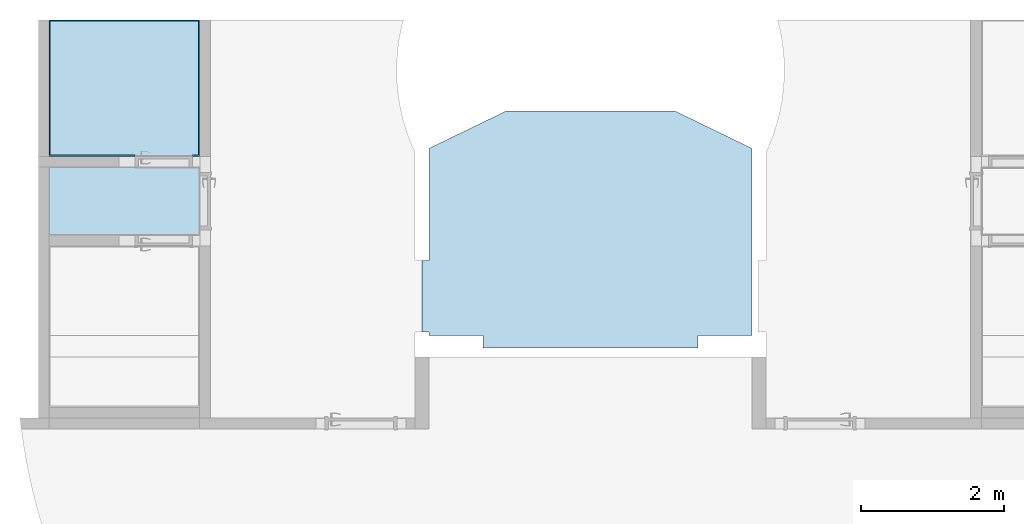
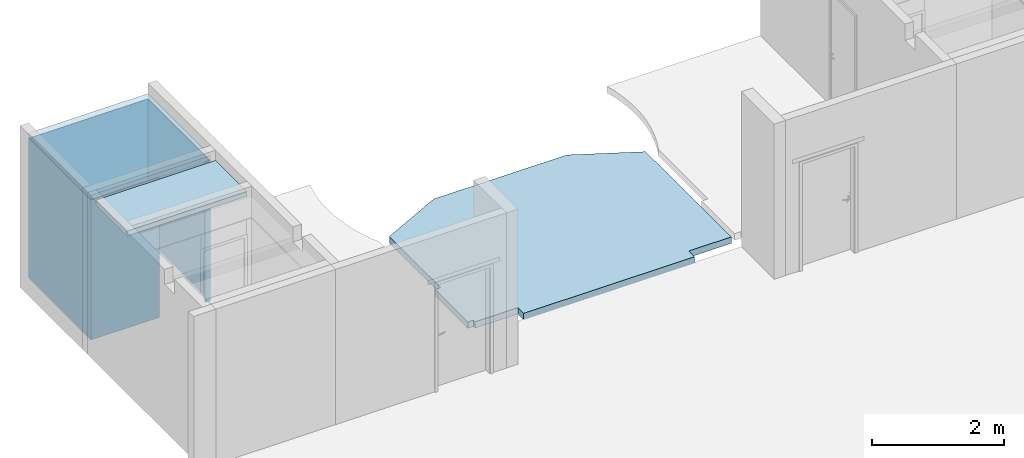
# One storey, part 4 of 17: 4 slabs.
"""IFC4 building model written with IfcOpenShell, lengths in millimetres."""

from ifc_helpers import new_model, entity, si_unit, converted_unit, derived_unit, direction, frame, origin_with_axes, place, context, subcontext, project, spatial, polygons, material, constituent, constituent_set, type_object, element, save


model = new_model("IFC4")

# Units and contexts
model_context = context("Model", 3, precision=0.01, world=origin_with_axes(), true_north=direction((0.0, 1.0)))
body_context = subcontext(model_context, "Body", "Model", "MODEL_VIEW")
ifc_project = project(units=[si_unit("LENGTHUNIT", "METRE", prefix="MILLI"), si_unit("AREAUNIT", "SQUARE_METRE"), si_unit("VOLUMEUNIT", "CUBIC_METRE"), converted_unit("PLANEANGLEUNIT", "DEGREE", entity("IfcPlaneAngleMeasure", 0.0174532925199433), si_unit("PLANEANGLEUNIT", "RADIAN"), dimensions=[0, 0, 0, 0, 0, 0, 0]), converted_unit("TIMEUNIT", "Year", entity("IfcTimeMeasure", 31557600.0), si_unit("TIMEUNIT", "SECOND"), dimensions=[0, 0, 1, 0, 0, 0, 0]), si_unit("MASSUNIT", "GRAM", prefix="KILO"), si_unit("THERMODYNAMICTEMPERATUREUNIT", "DEGREE_CELSIUS"), si_unit("LUMINOUSINTENSITYUNIT", "LUMEN"), si_unit("ENERGYUNIT", "JOULE", prefix="MEGA"), derived_unit("THERMALCONDUCTANCEUNIT", [(si_unit("POWERUNIT", "WATT"), 1), (si_unit("LENGTHUNIT", "METRE"), -1), (si_unit("THERMODYNAMICTEMPERATUREUNIT", "KELVIN"), -1)]), derived_unit("SPECIFICHEATCAPACITYUNIT", [(si_unit("ENERGYUNIT", "JOULE"), 1), (si_unit("MASSUNIT", "GRAM", prefix="KILO"), -1), (si_unit("THERMODYNAMICTEMPERATUREUNIT", "KELVIN"), -1)]), derived_unit("MASSDENSITYUNIT", [(si_unit("MASSUNIT", "GRAM", prefix="KILO"), 1), (si_unit("VOLUMEUNIT", "CUBIC_METRE"), -1)])], contexts=[model_context])

# Site, building, storey
site_placement = place(None, origin_with_axes())
site = spatial("IfcSite", under=ifc_project, at=site_placement, Name="Exteriér", CompositionType="ELEMENT")
building_placement = place(site_placement, origin_with_axes())
building = spatial("IfcBuilding", under=site, at=building_placement, Name="Univerzitní lezecké centrum", CompositionType="ELEMENT")
storey_placement = place(building_placement, frame((0.0, 0.0, 3200.0), z_axis=(0.0, 0.0, 1.0), x_axis=(1.0, 0.0, 0.0)))
storey = spatial("IfcBuildingStorey", under=building, at=storey_placement, Name="2.NP", CompositionType="ELEMENT", Elevation=3200.0)

# Slabs
ifc_material_1 = material(Name="SDK - UA profil nosný 50")
ifc_constituent_1 = constituent(ifc_material_1, Name="SDK - UA profil nosný 50")
ifc_material_2 = material(Name="SDK - R-CD profil montážní")
ifc_constituent_2 = constituent(ifc_material_2, Name="SDK - R-CD profil montážní")
ifc_material_3 = material(Name="Sádrokarton - voděodolný")
ifc_constituent_3 = constituent(ifc_material_3, Name="Sádrokarton - voděodolný")
ifc_constituent_set_1 = constituent_set(constituents=[ifc_constituent_1, ifc_constituent_2, ifc_constituent_3], Name="!SDK - hygienický")
slab_type_1 = type_object("IfcSlabType", Name="!SDK - hygienický 90", PredefinedType="FLOOR")
slab_1_placement = place(storey_placement, frame((-5100.148351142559, 2500.000000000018, 2690.0), z_axis=(0.0, 0.0, 1.0), x_axis=(1.0, 0.0, 0.0)))
element("IfcSlab", 1, at=slab_1_placement, inside=storey, type_object=slab_type_1, material=ifc_constituent_set_1, Name="Pdh01", PredefinedType="FLOOR", context=body_context, shape_type="Tessellation", body=[
    polygons([(2099.796584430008, 0.0, 0.0), (2099.796584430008, 1899.999999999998, 0.0), (0.0, 1899.999999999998, 0.0), (0.0, 0.0, 0.0), (2099.796584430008, 1899.999999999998, -50.00000000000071), (2099.796584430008, 0.0, -49.99999999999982), (0.0, 1899.999999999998, -49.99999999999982), (0.0, 0.0, -49.99999999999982)], [[[1, 2, 3, 4]], [[5, 2, 1, 6]], [[2, 5, 7, 3]], [[7, 8, 4, 3]], [[6, 1, 4, 8]], [[5, 6, 8, 7]]], closed=True),
    polygons([(2099.796584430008, 0.0, -49.99999999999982), (2099.796584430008, 1899.999999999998, -49.99999999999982), (0.0, 1899.999999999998, -49.99999999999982), (0.0, 0.0, -49.99999999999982), (2099.796584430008, 1899.999999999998, -77.00000000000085), (2099.796584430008, 0.0, -76.99999999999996), (0.0, 1899.999999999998, -76.99999999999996), (0.0, 0.0, -76.99999999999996)], [[[1, 2, 3, 4]], [[5, 2, 1, 6]], [[2, 5, 7, 3]], [[7, 8, 4, 3]], [[6, 1, 4, 8]], [[5, 6, 8, 7]]], closed=True),
    polygons([(2099.796584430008, 0.0, -76.99999999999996), (2099.796584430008, 1899.999999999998, -76.99999999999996), (0.0, 1899.999999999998, -76.99999999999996), (0.0, 0.0, -76.99999999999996), (2099.796584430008, 1899.999999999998, -89.99999999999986), (2099.796584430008, 0.0, -89.99999999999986), (0.0, 1899.999999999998, -89.99999999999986), (0.0, 0.0, -89.99999999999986)], [[[1, 2, 3, 4]], [[5, 2, 1, 6]], [[2, 5, 7, 3]], [[3, 7, 8, 4]], [[6, 1, 4, 8]], [[5, 6, 8, 7]]], closed=True),
])
ifc_constituent_4 = constituent(ifc_material_1, Name="SDK - UA profil nosný 50")
ifc_constituent_5 = constituent(ifc_material_2, Name="SDK - R-CD profil montážní")
ifc_constituent_6 = constituent(ifc_material_3, Name="Sádrokarton - voděodolný")
ifc_constituent_set_2 = constituent_set(constituents=[ifc_constituent_4, ifc_constituent_5, ifc_constituent_6], Name="!SDK - hygienický")
slab_2_placement = place(storey_placement, frame((-5100.148351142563, 1400.007373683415, 2690.0), z_axis=(0.0, 0.0, 1.0), x_axis=(1.0, 0.0, 0.0)))
element("IfcSlab", 2, at=slab_2_placement, inside=storey, type_object=slab_type_1, material=ifc_constituent_set_2, Name="Pdh01", PredefinedType="FLOOR", context=body_context, shape_type="Tessellation", body=[
    polygons([(0.0, 0.1032190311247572, 0.0), (2099.796584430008, 0.0, 0.0), (2099.796584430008, 949.9926263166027, 0.0), (0.0, 949.9926263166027, 0.0), (0.0, 0.1032190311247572, -49.99999999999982), (2099.796584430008, 0.0, -49.99999999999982), (2099.796584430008, 949.9926263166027, -49.99999999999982), (0.0, 949.9926263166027, -49.99999999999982)], [[[1, 2, 3, 4]], [[2, 1, 5, 6]], [[2, 6, 7, 3]], [[7, 8, 4, 3]], [[5, 1, 4, 8]], [[6, 5, 8, 7]]], closed=True),
    polygons([(0.0, 0.1032190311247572, -49.99999999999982), (2099.796584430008, 0.0, -50.00000000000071), (2099.796584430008, 949.9926263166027, -49.99999999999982), (0.0, 949.9926263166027, -49.99999999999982), (0.0, 0.1032190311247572, -76.99999999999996), (2099.796584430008, 0.0, -76.99999999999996), (2099.796584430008, 949.9926263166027, -76.99999999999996), (0.0, 949.9926263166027, -76.99999999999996)], [[[1, 2, 3, 4]], [[2, 1, 5, 6]], [[2, 6, 7, 3]], [[7, 8, 4, 3]], [[5, 1, 4, 8]], [[6, 5, 8, 7]]], closed=True),
    polygons([(0.0, 0.1032190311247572, -76.99999999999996), (2099.796584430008, 0.0, -76.99999999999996), (2099.796584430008, 949.9926263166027, -76.99999999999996), (0.0, 949.9926263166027, -76.99999999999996), (0.0, 0.1032190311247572, -89.99999999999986), (2099.796584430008, 0.0, -89.99999999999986), (2099.796584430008, 949.9926263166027, -89.99999999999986), (0.0, 949.9926263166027, -89.99999999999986)], [[[1, 2, 3, 4]], [[2, 1, 5, 6]], [[2, 6, 7, 3]], [[3, 7, 8, 4]], [[5, 1, 4, 8]], [[6, 5, 8, 7]]], closed=True),
])
ifc_material_4 = material(Name="Keramická dlažba 20x40 - obklad")
slab_type_2 = type_object("IfcSlabType", Name="Keramická dlažba 20x40 - obklad 2600", PredefinedType="FLOOR")
slab_3_placement = place(storey_placement, frame((-5100.148351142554, 4400.000000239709, 2600.0), z_axis=(0.0, 0.0, 1.0), x_axis=(1.0, 0.0, 0.0)))
element("IfcSlab", 3, at=slab_3_placement, inside=storey, type_object=slab_type_2, material=ifc_material_4, PredefinedType="FLOOR", context=body_context, shape_type="Tessellation", body=[
    polygons([(0.0, 0.0, 0.0), (0.0, 0.0, -2600.0), (0.0, -1900.000010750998, -2600.0), (0.0, -1900.000010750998, 0.0), (2099.79658443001, 0.0, 0.0), (2099.79658443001, 0.0, -2600.0), (2099.79658443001, -1900.000010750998, -2600.0), (1999.80395993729, -1900.000010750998, -2600.0), (1999.80395993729, -1885.000010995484, -2600.0), (2084.796584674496, -1885.000010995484, -2600.0), (2084.796584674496, -15.00738406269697, -2600.0), (14.99999975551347, -15.00738406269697, -2600.0), (14.99999975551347, -1885.000010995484, -2600.0), (1199.803952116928, -1885.000010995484, -2600.0), (1199.803952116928, -1900.000010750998, -2600.0), (1199.803952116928, -1900.000010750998, 0.0), (1199.803952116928, -1885.000010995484, 0.0), (14.99999975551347, -1885.000010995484, 0.0), (14.99999975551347, -15.00738406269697, 0.0), (2084.796584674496, -15.00738406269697, 0.0), (2084.796584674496, -1885.000010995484, 0.0), (1999.80395993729, -1885.000010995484, 0.0), (1999.80395993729, -1900.000010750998, 0.0), (2099.79658443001, -1900.000010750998, 0.0)], [[[1, 2, 3, 4]], [[5, 6, 2, 1]], [[3, 2, 6, 7, 8, 9, 10, 11, 12, 13, 14, 15]], [[4, 3, 15, 16]], [[5, 1, 4, 16, 17, 18, 19, 20, 21, 22, 23, 24]], [[24, 7, 6, 5]], [[23, 8, 7, 24]], [[22, 9, 8, 23]], [[21, 10, 9, 22]], [[20, 11, 10, 21]], [[19, 12, 11, 20]], [[18, 13, 12, 19]], [[17, 14, 13, 18]], [[16, 15, 14, 17]]], closed=True),
])
ifc_material_5 = material(Name="Keramická dlažba 60x60")
ifc_constituent_7 = constituent(ifc_material_5, Name="Keramická dlažba 60x60")
ifc_material_6 = material(Name="Lepicí tmel na dlažbu a obklady")
ifc_constituent_8 = constituent(ifc_material_6, Name="Lepicí tmel na dlažbu a obklady")
ifc_material_7 = material(Name="Samonivelační stěrková hmota")
ifc_constituent_9 = constituent(ifc_material_7, Name="Samonivelační stěrková hmota")
ifc_material_8 = material(Name="Betonová mazanina")
ifc_constituent_10 = constituent(ifc_material_8, Name="Betonová mazanina")
ifc_material_9 = material(Name="PE fólie")
ifc_constituent_11 = constituent(ifc_material_9, Name="PE fólie")
ifc_material_10 = material(Name="Akustická izolace - EPS")
ifc_constituent_12 = constituent(ifc_material_10, Name="Akustická izolace - EPS")
ifc_constituent_set_3 = constituent_set(constituents=[ifc_constituent_7, ifc_constituent_8, ifc_constituent_9, ifc_constituent_10, ifc_constituent_11, ifc_constituent_12], Name="!P03 Podlaha v patře - keramická dlažba 60x60")
slab_type_3 = type_object("IfcSlabType", Name="!P03 Podlaha v patře - keramická dlažba 60x60 120", PredefinedType="FLOOR")
slab_4_placement = place(storey_placement, frame((99.76950765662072, 49.89725946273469, 0.0), z_axis=(0.0, 0.0, 1.0), x_axis=(1.0, 0.0, 0.0)))
element("IfcSlab", 4, at=slab_4_placement, inside=storey, type_object=slab_type_3, material=ifc_constituent_set_3, Name="P03", PredefinedType="FLOOR", context=body_context, shape_type="Tessellation", body=[
    polygons([(3486.709191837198, 3083.552699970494, -9.999999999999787), (3486.709191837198, 3083.552699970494, 0.0), (3520.133871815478, 3083.552699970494, 0.0), (3520.133871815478, 3083.552699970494, -9.999999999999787), (3486.697349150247, 3083.528942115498, 0.0), (3486.697349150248, 3083.528942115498, -9.999999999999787), (3374.962676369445, 3083.530127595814, 0.0), (3374.973928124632, 3083.552699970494, 0.0), (1180.030394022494, 3083.552699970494, 0.0), (100.0000000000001, 2560.571644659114, 0.0), (100.0000000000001, 1000.000018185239, 0.0), (0.0, 1000.000018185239, 0.0), (0.0, 0.0, 0.0), (100.0111369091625, 0.0, 0.0), (100.0083355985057, -50.0606695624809, 0.0), (849.9028036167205, -49.90112288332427, 0.0), (849.9028375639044, -50.06067998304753, 0.0), (849.96663707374, -50.06067998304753, 0.0), (849.96663707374, -225.0606729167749, 0.0), (3849.940138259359, -225.0606729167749, 0.0), (3849.902735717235, -49.26284636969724, 0.0), (4600.180425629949, -49.10321815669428, 0.0), (4600.119029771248, 0.1027617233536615, 0.0), (4600.143487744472, 1000.102710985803, 0.0), (4600.181620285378, 2560.583464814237, 0.0), (4600.181620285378, 2560.583464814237, -9.999999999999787), (4600.143487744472, 1000.102710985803, -9.999999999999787), (4600.119029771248, 0.1027617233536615, -9.999999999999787), (4600.180425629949, -49.10321815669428, -9.999999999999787), (3849.902735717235, -49.26284636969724, -9.999999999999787), (3849.940138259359, -225.0606729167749, -9.999999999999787), (849.96663707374, -225.0606729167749, -9.999999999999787), (849.96663707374, -50.06067998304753, -9.999999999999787), (849.9028375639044, -50.06067998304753, -9.999999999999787), (849.9028036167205, -49.90112288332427, -9.999999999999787), (100.0083355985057, -50.0606695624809, -9.999999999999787), (100.0111369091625, 0.0, -9.999999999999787), (0.0, 0.0, -9.999999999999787), (0.0, 1000.000018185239, -9.999999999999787), (100.0000000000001, 1000.000018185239, -9.999999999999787), (100.0000000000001, 2560.571644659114, -9.999999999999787), (1180.030394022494, 3083.552699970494, -9.999999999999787), (3374.973928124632, 3083.552699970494, -9.999999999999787), (3374.962676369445, 3083.530127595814, -9.999999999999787)], [[[1, 2, 3, 4]], [[5, 2, 1, 6]], [[7, 8, 9, 10, 11, 12, 13, 14, 15, 16, 17, 18, 19, 20, 21, 22, 23, 24, 25, 3, 2, 5]], [[25, 26, 4, 3]], [[6, 1, 4, 26, 27, 28, 29, 30, 31, 32, 33, 34, 35, 36, 37, 38, 39, 40, 41, 42, 43, 44]], [[7, 5, 6, 44]], [[43, 8, 7, 44]], [[8, 43, 42, 9]], [[9, 42, 41, 10]], [[10, 41, 40, 11]], [[11, 40, 39, 12]], [[12, 39, 38, 13]], [[13, 38, 37, 14]], [[37, 36, 15, 14]], [[35, 16, 15, 36]], [[34, 17, 16, 35]], [[18, 17, 34, 33]], [[18, 33, 32, 19]], [[19, 32, 31, 20]], [[31, 30, 21, 20]], [[21, 30, 29, 22]], [[28, 23, 22, 29]], [[24, 23, 28, 27]], [[27, 26, 25, 24]]], closed=True),
    polygons([(3486.709191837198, 3083.552699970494, -12.9999999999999), (3486.709191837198, 3083.552699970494, -9.999999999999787), (3520.133871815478, 3083.552699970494, -9.999999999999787), (3520.133871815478, 3083.552699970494, -12.9999999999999), (3486.697349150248, 3083.528942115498, -9.999999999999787), (3486.697349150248, 3083.528942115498, -12.9999999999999), (3374.962676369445, 3083.530127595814, -9.999999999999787), (3374.973928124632, 3083.552699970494, -9.999999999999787), (1180.030394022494, 3083.552699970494, -9.999999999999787), (100.0000000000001, 2560.571644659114, -9.999999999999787), (100.0000000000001, 1000.000018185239, -9.999999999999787), (0.0, 1000.000018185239, -9.999999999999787), (0.0, 0.0, -9.999999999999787), (100.0111369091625, 0.0, -9.999999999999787), (100.0083355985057, -50.0606695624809, -9.999999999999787), (849.9028036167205, -49.90112288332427, -9.999999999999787), (849.9028375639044, -50.06067998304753, -9.999999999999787), (849.96663707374, -50.06067998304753, -9.999999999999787), (849.96663707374, -225.0606729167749, -9.999999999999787), (3849.940138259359, -225.0606729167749, -9.999999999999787), (3849.902735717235, -49.26284636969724, -9.999999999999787), (4600.180425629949, -49.10321815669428, -9.999999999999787), (4600.119029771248, 0.1027617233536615, -9.999999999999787), (4600.143487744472, 1000.102710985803, -9.999999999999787), (4600.181620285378, 2560.583464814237, -9.999999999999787), (4600.181620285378, 2560.583464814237, -12.9999999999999), (4600.143487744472, 1000.102710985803, -12.9999999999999), (4600.119029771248, 0.1027617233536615, -12.9999999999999), (4600.180425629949, -49.10321815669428, -12.9999999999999), (3849.902735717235, -49.26284636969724, -12.9999999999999), (3849.940138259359, -225.0606729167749, -12.9999999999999), (849.96663707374, -225.0606729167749, -12.9999999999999), (849.96663707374, -50.06067998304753, -12.9999999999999), (849.9028375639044, -50.06067998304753, -12.9999999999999), (849.9028036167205, -49.90112288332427, -12.9999999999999), (100.0083355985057, -50.0606695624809, -12.9999999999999), (100.0111369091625, 0.0, -12.9999999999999), (0.0, 0.0, -12.9999999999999), (0.0, 1000.000018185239, -12.9999999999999), (100.0000000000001, 1000.000018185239, -12.9999999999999), (100.0000000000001, 2560.571644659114, -12.9999999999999), (1180.030394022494, 3083.552699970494, -12.9999999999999), (3374.973928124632, 3083.552699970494, -12.9999999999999), (3374.962676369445, 3083.530127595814, -12.9999999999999)], [[[1, 2, 3, 4]], [[5, 2, 1, 6]], [[7, 8, 9, 10, 11, 12, 13, 14, 15, 16, 17, 18, 19, 20, 21, 22, 23, 24, 25, 3, 2, 5]], [[25, 26, 4, 3]], [[6, 1, 4, 26, 27, 28, 29, 30, 31, 32, 33, 34, 35, 36, 37, 38, 39, 40, 41, 42, 43, 44]], [[7, 5, 6, 44]], [[43, 8, 7, 44]], [[8, 43, 42, 9]], [[9, 42, 41, 10]], [[10, 41, 40, 11]], [[11, 40, 39, 12]], [[12, 39, 38, 13]], [[13, 38, 37, 14]], [[37, 36, 15, 14]], [[35, 16, 15, 36]], [[34, 17, 16, 35]], [[18, 17, 34, 33]], [[18, 33, 32, 19]], [[19, 32, 31, 20]], [[31, 30, 21, 20]], [[21, 30, 29, 22]], [[28, 23, 22, 29]], [[24, 23, 28, 27]], [[27, 26, 25, 24]]], closed=True),
    polygons([(3486.709191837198, 3083.552699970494, -16.00000000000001), (3486.709191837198, 3083.552699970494, -12.9999999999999), (3520.133871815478, 3083.552699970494, -12.9999999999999), (3520.133871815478, 3083.552699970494, -16.00000000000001), (3486.697349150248, 3083.528942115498, -12.9999999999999), (3486.697349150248, 3083.528942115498, -16.00000000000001), (3374.962676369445, 3083.530127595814, -12.9999999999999), (3374.973928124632, 3083.552699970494, -12.9999999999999), (1180.030394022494, 3083.552699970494, -12.9999999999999), (100.0000000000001, 2560.571644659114, -12.9999999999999), (100.0000000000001, 1000.000018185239, -12.9999999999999), (0.0, 1000.000018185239, -12.9999999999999), (0.0, 0.0, -12.9999999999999), (100.0111369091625, 0.0, -12.9999999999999), (100.0083355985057, -50.0606695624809, -12.9999999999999), (849.9028036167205, -49.90112288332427, -12.9999999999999), (849.9028375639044, -50.06067998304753, -12.9999999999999), (849.96663707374, -50.06067998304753, -12.9999999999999), (849.96663707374, -225.0606729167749, -12.9999999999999), (3849.940138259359, -225.0606729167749, -12.9999999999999), (3849.902735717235, -49.26284636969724, -12.9999999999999), (4600.180425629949, -49.10321815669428, -12.9999999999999), (4600.119029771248, 0.1027617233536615, -12.9999999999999), (4600.143487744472, 1000.102710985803, -12.9999999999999), (4600.181620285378, 2560.583464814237, -12.9999999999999), (4600.181620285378, 2560.583464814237, -16.00000000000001), (4600.143487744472, 1000.102710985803, -16.00000000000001), (4600.119029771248, 0.1027617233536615, -16.00000000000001), (4600.180425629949, -49.10321815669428, -16.00000000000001), (3849.902735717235, -49.26284636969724, -16.00000000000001), (3849.940138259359, -225.0606729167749, -16.00000000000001), (849.96663707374, -225.0606729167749, -16.00000000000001), (849.96663707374, -50.06067998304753, -16.00000000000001), (849.9028375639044, -50.06067998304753, -16.00000000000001), (849.9028036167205, -49.90112288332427, -16.00000000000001), (100.0083355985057, -50.0606695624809, -16.00000000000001), (100.0111369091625, 0.0, -16.00000000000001), (0.0, 0.0, -16.00000000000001), (0.0, 1000.000018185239, -16.00000000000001), (100.0000000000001, 1000.000018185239, -16.00000000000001), (100.0000000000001, 2560.571644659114, -16.00000000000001), (1180.030394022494, 3083.552699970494, -16.00000000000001), (3374.973928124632, 3083.552699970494, -16.00000000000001), (3374.962676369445, 3083.530127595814, -16.00000000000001)], [[[1, 2, 3, 4]], [[5, 2, 1, 6]], [[7, 8, 9, 10, 11, 12, 13, 14, 15, 16, 17, 18, 19, 20, 21, 22, 23, 24, 25, 3, 2, 5]], [[25, 26, 4, 3]], [[6, 1, 4, 26, 27, 28, 29, 30, 31, 32, 33, 34, 35, 36, 37, 38, 39, 40, 41, 42, 43, 44]], [[7, 5, 6, 44]], [[43, 8, 7, 44]], [[8, 43, 42, 9]], [[9, 42, 41, 10]], [[10, 41, 40, 11]], [[11, 40, 39, 12]], [[12, 39, 38, 13]], [[13, 38, 37, 14]], [[37, 36, 15, 14]], [[35, 16, 15, 36]], [[34, 17, 16, 35]], [[18, 17, 34, 33]], [[18, 33, 32, 19]], [[19, 32, 31, 20]], [[31, 30, 21, 20]], [[21, 30, 29, 22]], [[28, 23, 22, 29]], [[24, 23, 28, 27]], [[27, 26, 25, 24]]], closed=True),
    polygons([(3486.709191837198, 3083.552699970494, -79.00000000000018), (3486.709191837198, 3083.552699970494, -16.00000000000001), (3520.133871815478, 3083.552699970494, -16.00000000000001), (3520.133871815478, 3083.552699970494, -79.00000000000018), (3486.697349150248, 3083.528942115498, -16.00000000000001), (3486.697349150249, 3083.528942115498, -79.00000000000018), (3374.962676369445, 3083.530127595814, -16.00000000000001), (3374.973928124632, 3083.552699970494, -16.00000000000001), (1180.030394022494, 3083.552699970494, -16.00000000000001), (100.0000000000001, 2560.571644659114, -16.00000000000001), (100.0000000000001, 1000.000018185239, -16.00000000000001), (0.0, 1000.000018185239, -16.00000000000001), (0.0, 0.0, -16.00000000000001), (100.0111369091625, 0.0, -16.00000000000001), (100.0083355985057, -50.0606695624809, -16.00000000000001), (849.9028036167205, -49.90112288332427, -16.00000000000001), (849.9028375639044, -50.06067998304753, -16.00000000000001), (849.96663707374, -50.06067998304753, -16.00000000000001), (849.96663707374, -225.0606729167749, -16.00000000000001), (3849.940138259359, -225.0606729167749, -16.00000000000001), (3849.902735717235, -49.26284636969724, -16.00000000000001), (4600.180425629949, -49.10321815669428, -16.00000000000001), (4600.119029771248, 0.1027617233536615, -16.00000000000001), (4600.143487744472, 1000.102710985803, -16.00000000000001), (4600.181620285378, 2560.583464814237, -16.00000000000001), (4600.181620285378, 2560.583464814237, -79.00000000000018), (4600.143487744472, 1000.102710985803, -79.00000000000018), (4600.119029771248, 0.1027617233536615, -79.00000000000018), (4600.180425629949, -49.10321815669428, -79.00000000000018), (3849.902735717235, -49.26284636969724, -79.00000000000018), (3849.940138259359, -225.0606729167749, -79.00000000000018), (849.96663707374, -225.0606729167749, -79.00000000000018), (849.96663707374, -50.06067998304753, -79.00000000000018), (849.9028375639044, -50.06067998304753, -79.00000000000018), (849.9028036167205, -49.90112288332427, -79.00000000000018), (100.0083355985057, -50.0606695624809, -79.00000000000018), (100.0111369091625, 0.0, -79.00000000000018), (0.0, 0.0, -79.00000000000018), (0.0, 1000.000018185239, -79.00000000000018), (100.0000000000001, 1000.000018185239, -79.00000000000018), (100.0000000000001, 2560.571644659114, -79.00000000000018), (1180.030394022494, 3083.552699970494, -79.00000000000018), (3374.973928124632, 3083.552699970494, -79.00000000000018), (3374.962676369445, 3083.530127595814, -79.00000000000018)], [[[1, 2, 3, 4]], [[5, 2, 1, 6]], [[7, 8, 9, 10, 11, 12, 13, 14, 15, 16, 17, 18, 19, 20, 21, 22, 23, 24, 25, 3, 2, 5]], [[25, 26, 4, 3]], [[6, 1, 4, 26, 27, 28, 29, 30, 31, 32, 33, 34, 35, 36, 37, 38, 39, 40, 41, 42, 43, 44]], [[7, 5, 6, 44]], [[43, 8, 7, 44]], [[8, 43, 42, 9]], [[9, 42, 41, 10]], [[10, 41, 40, 11]], [[11, 40, 39, 12]], [[12, 39, 38, 13]], [[13, 38, 37, 14]], [[37, 36, 15, 14]], [[35, 16, 15, 36]], [[34, 17, 16, 35]], [[18, 17, 34, 33]], [[18, 33, 32, 19]], [[19, 32, 31, 20]], [[31, 30, 21, 20]], [[21, 30, 29, 22]], [[28, 23, 22, 29]], [[24, 23, 28, 27]], [[27, 26, 25, 24]]], closed=True),
    polygons([(3486.709191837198, 3083.552699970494, -79.50000000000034), (3486.709191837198, 3083.552699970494, -79.00000000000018), (3520.133871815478, 3083.552699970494, -79.00000000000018), (3520.133871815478, 3083.552699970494, -79.50000000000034), (3486.697349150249, 3083.528942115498, -79.00000000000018), (3486.697349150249, 3083.528942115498, -79.50000000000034), (3374.962676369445, 3083.530127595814, -79.00000000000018), (3374.973928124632, 3083.552699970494, -79.00000000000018), (1180.030394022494, 3083.552699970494, -79.00000000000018), (100.0000000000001, 2560.571644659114, -79.00000000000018), (100.0000000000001, 1000.000018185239, -79.00000000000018), (0.0, 1000.000018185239, -79.00000000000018), (0.0, 0.0, -79.00000000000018), (100.0111369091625, 0.0, -79.00000000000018), (100.0083355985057, -50.0606695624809, -79.00000000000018), (849.9028036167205, -49.90112288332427, -79.00000000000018), (849.9028375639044, -50.06067998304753, -79.00000000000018), (849.96663707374, -50.06067998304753, -79.00000000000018), (849.96663707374, -225.0606729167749, -79.00000000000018), (3849.940138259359, -225.0606729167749, -79.00000000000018), (3849.902735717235, -49.26284636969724, -79.00000000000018), (4600.180425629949, -49.10321815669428, -79.00000000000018), (4600.119029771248, 0.1027617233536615, -79.00000000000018), (4600.143487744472, 1000.102710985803, -79.00000000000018), (4600.181620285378, 2560.583464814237, -79.00000000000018), (4600.181620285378, 2560.583464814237, -79.50000000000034), (4600.143487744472, 1000.102710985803, -79.50000000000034), (4600.119029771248, 0.1027617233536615, -79.50000000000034), (4600.180425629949, -49.10321815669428, -79.50000000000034), (3849.902735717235, -49.26284636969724, -79.50000000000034), (3849.940138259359, -225.0606729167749, -79.50000000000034), (849.96663707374, -225.0606729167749, -79.50000000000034), (849.96663707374, -50.06067998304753, -79.50000000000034), (849.9028375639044, -50.06067998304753, -79.50000000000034), (849.9028036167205, -49.90112288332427, -79.50000000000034), (100.0083355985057, -50.0606695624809, -79.50000000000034), (100.0111369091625, 0.0, -79.50000000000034), (0.0, 0.0, -79.50000000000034), (0.0, 1000.000018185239, -79.50000000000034), (100.0000000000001, 1000.000018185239, -79.50000000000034), (100.0000000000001, 2560.571644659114, -79.50000000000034), (1180.030394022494, 3083.552699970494, -79.50000000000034), (3374.973928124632, 3083.552699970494, -79.50000000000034), (3374.962676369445, 3083.530127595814, -79.50000000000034)], [[[1, 2, 3, 4]], [[5, 2, 1, 6]], [[7, 8, 9, 10, 11, 12, 13, 14, 15, 16, 17, 18, 19, 20, 21, 22, 23, 24, 25, 3, 2, 5]], [[25, 26, 4, 3]], [[6, 1, 4, 26, 27, 28, 29, 30, 31, 32, 33, 34, 35, 36, 37, 38, 39, 40, 41, 42, 43, 44]], [[7, 5, 6, 44]], [[43, 8, 7, 44]], [[8, 43, 42, 9]], [[9, 42, 41, 10]], [[10, 41, 40, 11]], [[11, 40, 39, 12]], [[12, 39, 38, 13]], [[13, 38, 37, 14]], [[37, 36, 15, 14]], [[35, 16, 15, 36]], [[34, 17, 16, 35]], [[18, 17, 34, 33]], [[18, 33, 32, 19]], [[19, 32, 31, 20]], [[31, 30, 21, 20]], [[21, 30, 29, 22]], [[28, 23, 22, 29]], [[24, 23, 28, 27]], [[27, 26, 25, 24]]], closed=True),
    polygons([(0.0, 0.0, -79.4999999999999), (0.0, 0.0, -119.4999999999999), (100.0111369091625, 0.0, -119.4999999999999), (100.0111369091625, 0.0, -79.4999999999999), (0.0, 1000.000018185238, -79.4999999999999), (0.0, 1000.000018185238, -119.4999999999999), (100.0083356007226, -50.06067998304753, -119.4999999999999), (100.0000000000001, 1000.000018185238, -119.4999999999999), (100.0000000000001, 2560.571644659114, -119.4999999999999), (1180.030394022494, 3083.552699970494, -119.4999999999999), (1326.591094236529, 3083.552699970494, -119.4999999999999), (3486.697349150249, 3083.529138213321, -119.4999999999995), (3486.709191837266, 3083.552699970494, -119.4999999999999), (3520.133871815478, 3083.552699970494, -119.4999999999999), (4600.181620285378, 2560.583464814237, -119.4999999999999), (4600.181620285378, 2157.623111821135, -119.4999999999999), (4600.171797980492, 2157.608049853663, -119.4999999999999), (4600.117826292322, -49.10323147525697, -119.4999999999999), (3849.902735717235, -49.26284636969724, -119.4999999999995), (3849.940138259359, -225.0606729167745, -119.4999999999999), (849.96663707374, -225.0606729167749, -119.4999999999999), (849.96663707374, -50.06067998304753, -119.4999999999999), (849.9028375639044, -50.06067998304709, -119.4999999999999), (849.9028036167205, -49.90112288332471, -119.4999999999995), (100.0083356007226, -50.06067998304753, -79.4999999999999), (849.9028036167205, -49.90112288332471, -79.4999999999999), (849.9028375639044, -50.06067998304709, -79.4999999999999), (849.96663707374, -50.06067998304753, -79.4999999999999), (849.96663707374, -225.0606729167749, -79.4999999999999), (3849.940138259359, -225.0606729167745, -79.4999999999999), (3849.902735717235, -49.26284636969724, -79.4999999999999), (4600.117826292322, -49.10323147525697, -79.4999999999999), (4600.171797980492, 2157.608049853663, -79.4999999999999), (4600.181620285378, 2157.623111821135, -79.4999999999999), (4600.181620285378, 2560.583464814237, -79.4999999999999), (3520.133871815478, 3083.552699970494, -79.4999999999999), (3486.709191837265, 3083.552699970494, -79.4999999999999), (3486.697349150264, 3083.528942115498, -79.4999999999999), (1326.591094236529, 3083.552699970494, -79.4999999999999), (1180.030394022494, 3083.552699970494, -79.4999999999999), (100.0000000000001, 2560.571644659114, -79.4999999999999), (100.0000000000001, 1000.000018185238, -79.4999999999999), (3486.697349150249, 3083.528942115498, -99.99999999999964)], [[[1, 2, 3, 4]], [[2, 1, 5, 6]], [[7, 3, 2, 6, 8, 9, 10, 11, 12, 13, 14, 15, 16, 17, 18, 19, 20, 21, 22, 23, 24]], [[3, 7, 25, 4]], [[4, 25, 26, 27, 28, 29, 30, 31, 32, 33, 34, 35, 36, 37, 38, 39, 40, 41, 42, 5, 1]], [[8, 6, 5, 42]], [[8, 42, 41, 9]], [[9, 41, 40, 10]], [[11, 10, 40, 39]], [[12, 11, 39, 38, 43]], [[43, 38, 37, 13, 12]], [[13, 37, 36, 14]], [[14, 36, 35, 15]], [[33, 17, 16, 15, 35, 34]], [[18, 17, 33, 32]], [[31, 19, 18, 32]], [[20, 19, 31, 30]], [[21, 20, 30, 29]], [[22, 21, 29, 28]], [[23, 22, 28, 27]], [[26, 24, 23, 27]], [[25, 7, 24, 26]]], closed=True),
])

save(model, "model.ifc")
